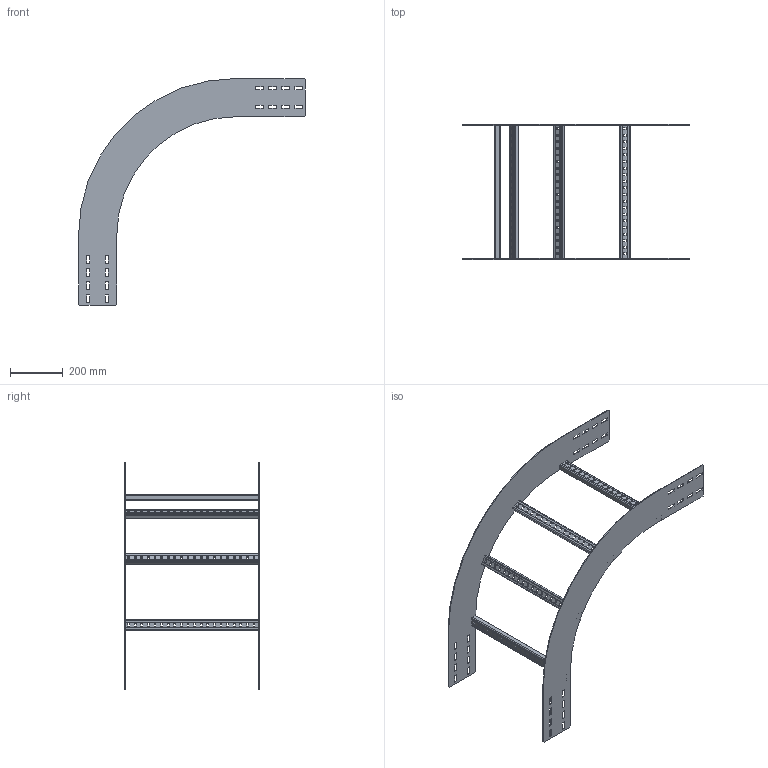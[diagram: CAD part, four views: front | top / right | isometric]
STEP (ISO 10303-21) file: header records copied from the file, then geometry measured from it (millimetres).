
FILE_DESCRIPTION(('Creo Elements/Direct Modeling STEP Export'),'2;1');
FILE_NAME('WPOR15-50-90-45.stp','2016-06-02T11:56:38',(''),(''),'PTC Creo Elements/Direct Modeling STEP processor for AP214 (Solid Model)','PTC Creo Elements/Direct Modeling 19.0C 15-Aug-2015 (C) Parametric Technology GmbH','');
FILE_SCHEMA(('AUTOMOTIVE_DESIGN { 1 0 10303 214 1 1 1 1 }'));
Length unit declared in the file: millimetre
Products named in the file (3): WPIBG150_450.1; WPHBS50; WPOR15-50-90-45
Assembly tree (6 placements, depth 2):
  WPOR15-50-90-45
    WPHBS50  x4
    WPIBG150_450.1  x2
Bounding box: 860 x 511 x 860 mm (x, y, z)
Volume: 1436526.6 mm3; surface area: 1192228.5 mm2
Topology: 6 solids, 6 shells, 636 faces, 1872 edges, 1248 vertices
Faces by surface type: plane 400, cylinder 236
Entity records: 6812 total; most frequent: CARTESIAN_POINT 1174, ORIENTED_EDGE 1164, DIRECTION 1110, EDGE_CURVE 582, VECTOR 462, LINE 462, VERTEX_POINT 388, AXIS2_PLACEMENT_3D 324
